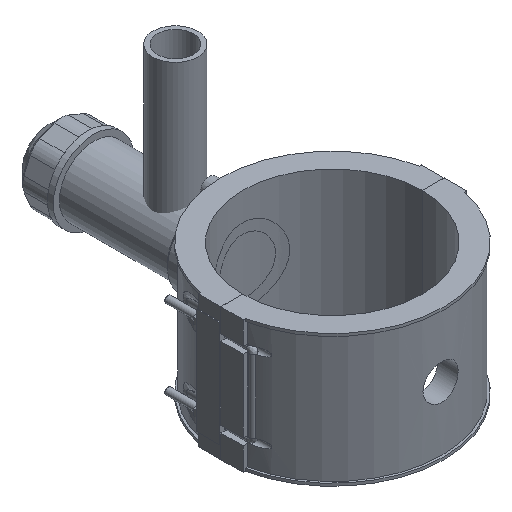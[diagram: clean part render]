
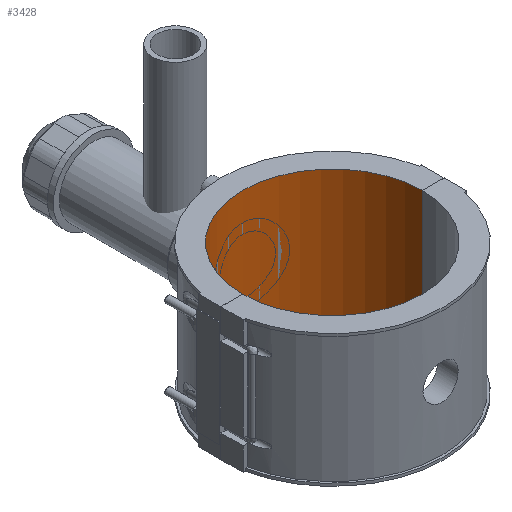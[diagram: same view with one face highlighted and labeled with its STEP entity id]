
A CAD part, isometric view. The second image highlights one B-rep face of the part: STEP entity #3428.
In plain terms, the highlighted cylindrical face has radius 80 mm (diameter 160 mm), a partial arc.
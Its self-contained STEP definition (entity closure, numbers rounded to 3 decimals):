
#265=CIRCLE('',#3714,80.);
#266=CIRCLE('',#3716,80.);
#446=FACE_OUTER_BOUND('',#660,.T.);
#660=EDGE_LOOP('',(#2909,#2910,#2911,#2912));
#917=LINE('',#6473,#1225);
#951=LINE('',#6793,#1259);
#1225=VECTOR('',#4303,10.);
#1259=VECTOR('',#4435,10.);
#1615=VERTEX_POINT('',#6470);
#1616=VERTEX_POINT('',#6472);
#1654=VERTEX_POINT('',#6790);
#1655=VERTEX_POINT('',#6792);
#2029=EDGE_CURVE('',#1616,#1615,#917,.T.);
#2094=EDGE_CURVE('',#1655,#1654,#951,.T.);
#2097=EDGE_CURVE('',#1616,#1654,#265,.T.);
#2098=EDGE_CURVE('',#1655,#1615,#266,.T.);
#2909=ORIENTED_EDGE('',*,*,#2094,.T.);
#2910=ORIENTED_EDGE('',*,*,#2097,.F.);
#2911=ORIENTED_EDGE('',*,*,#2029,.T.);
#2912=ORIENTED_EDGE('',*,*,#2098,.F.);
#3286=CYLINDRICAL_SURFACE('',#3717,80.);
#3428=ADVANCED_FACE('',(#446),#3286,.F.);
#3714=AXIS2_PLACEMENT_3D('',#6798,#4440,#4441);
#3716=AXIS2_PLACEMENT_3D('',#6800,#4444,#4445);
#3717=AXIS2_PLACEMENT_3D('',#6802,#4447,#4448);
#4303=DIRECTION('',(0.,0.,-1.));
#4435=DIRECTION('',(0.,0.,1.));
#4440=DIRECTION('center_axis',(0.,0.,-1.));
#4441=DIRECTION('ref_axis',(-1.,0.,0.));
#4444=DIRECTION('center_axis',(0.,0.,1.));
#4445=DIRECTION('ref_axis',(-1.,0.,0.));
#4447=DIRECTION('center_axis',(0.,0.,1.));
#4448=DIRECTION('ref_axis',(-1.,0.,0.));
#6470=CARTESIAN_POINT('',(-80.,0.05,-59.));
#6472=CARTESIAN_POINT('',(-80.,0.05,59.));
#6473=CARTESIAN_POINT('',(-80.,0.05,0.));
#6790=CARTESIAN_POINT('',(80.,0.05,59.));
#6792=CARTESIAN_POINT('',(80.,0.05,-59.));
#6793=CARTESIAN_POINT('',(80.,0.05,0.));
#6798=CARTESIAN_POINT('Origin',(0.,0.,59.));
#6800=CARTESIAN_POINT('Origin',(0.,0.,-59.));
#6802=CARTESIAN_POINT('Origin',(0.,0.,0.));
